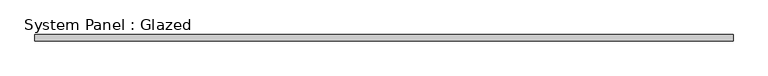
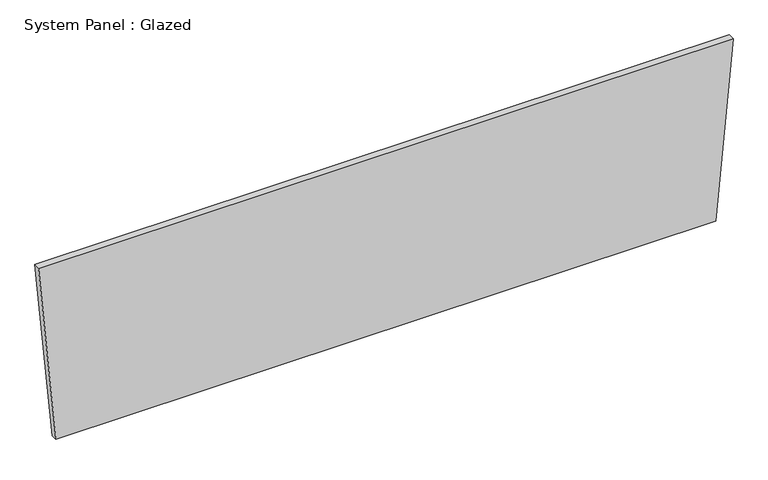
"""IFC4 building model written with IfcOpenShell, lengths in millimetres: plate geometry, System Panel : Glazed."""

from ifc_helpers import new_model, si_unit, frame, origin, place, context, project, spatial, polyline, outline, extrude, source, transform, mapped, element, save


def system_panel_glazed_a404a3f6(model_context):
    return source(origin(), model_context, "Body", "SweptSolid", [
        extrude(outline(polyline([(0.0, -1338.4915735), (0.0, 1338.4915735), (758.7366017, 1408.9384984), (758.7366017, -1408.9384984), (0.0, -1338.4915735)])), frame((0.0, -44.45, 0.0), z_axis=(0.0, 1.0, 0.0), x_axis=(0.0, 0.0, 1.0)), (0.0, 0.0, 1.0), 25.4),
    ])


if __name__ == "__main__":
    model = new_model("IFC4")
    model_context = context("Model", 3, world=origin())
    ifc_project = project(units=[si_unit("LENGTHUNIT", "METRE", prefix="MILLI")], contexts=[model_context])
    site = spatial("IfcSite", under=ifc_project)
    building = spatial("IfcBuilding", under=site)
    placement = place(None, origin())
    system_panel_glazed_shape = system_panel_glazed_a404a3f6(model_context)
    element("IfcPlate", 1, ObjectType="System Panel : Glazed", at=placement, inside=building, context=model_context, shape_type="MappedRepresentation", body=[
        mapped(system_panel_glazed_shape, transform((0.0, 0.0, 0.0), x_axis=(1.0, 0.0, 0.0), y_axis=(0.0, 1.0, 0.0), z_axis=(0.0, 0.0, 1.0))),
    ])
    save(model, "model.ifc")
